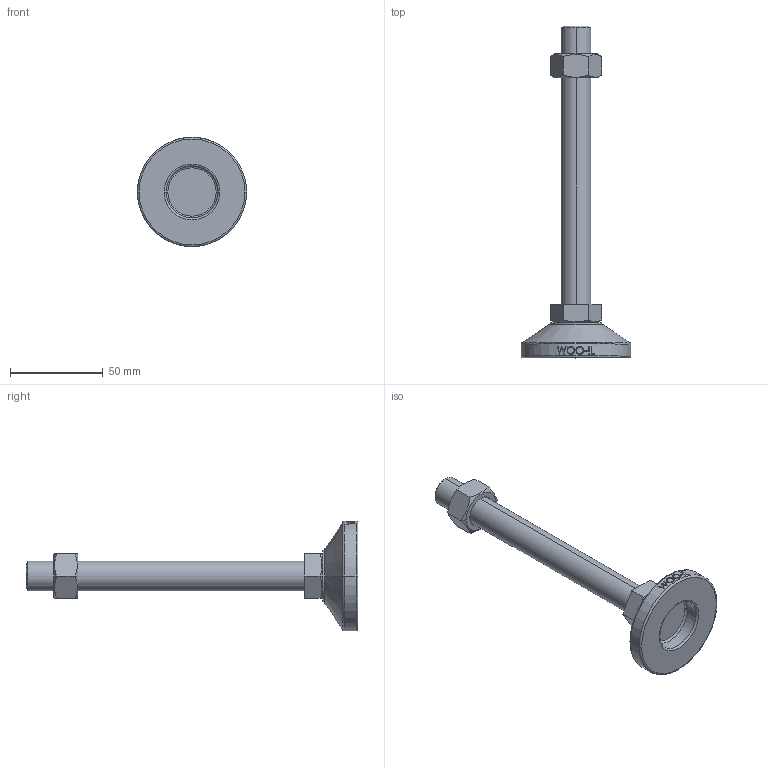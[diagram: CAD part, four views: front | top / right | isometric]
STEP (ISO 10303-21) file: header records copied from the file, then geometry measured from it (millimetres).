
FILE_DESCRIPTION (( 'STEP AP214' ), '1' );
FILE_NAME ('MF59-M16-150.step', '2021-02-03T08:18:02', ( '' ), ( '' ), 'SwSTEP 2.0', 'SolidWorks 2019', '' );
FILE_SCHEMA (( 'AUTOMOTIVE_DESIGN' ));
Length unit declared in the file: millimetre
Products named in the file (2): MF59-M16-150
Bounding box: 59 x 179 x 59 mm (x, y, z)
Volume: 71853.6 mm3; surface area: 19549.8 mm2
Topology: 3 solids, 3 shells, 106 faces, 243 edges, 154 vertices
Faces by surface type: plane 48, cylinder 18, bspline 16, cone 14, torus 10
Entity records: 4448 total; most frequent: CARTESIAN_POINT 2105, ORIENTED_EDGE 486, DIRECTION 439, EDGE_CURVE 243, AXIS2_PLACEMENT_3D 170, VERTEX_POINT 154, EDGE_LOOP 119, FACE_OUTER_BOUND 106
